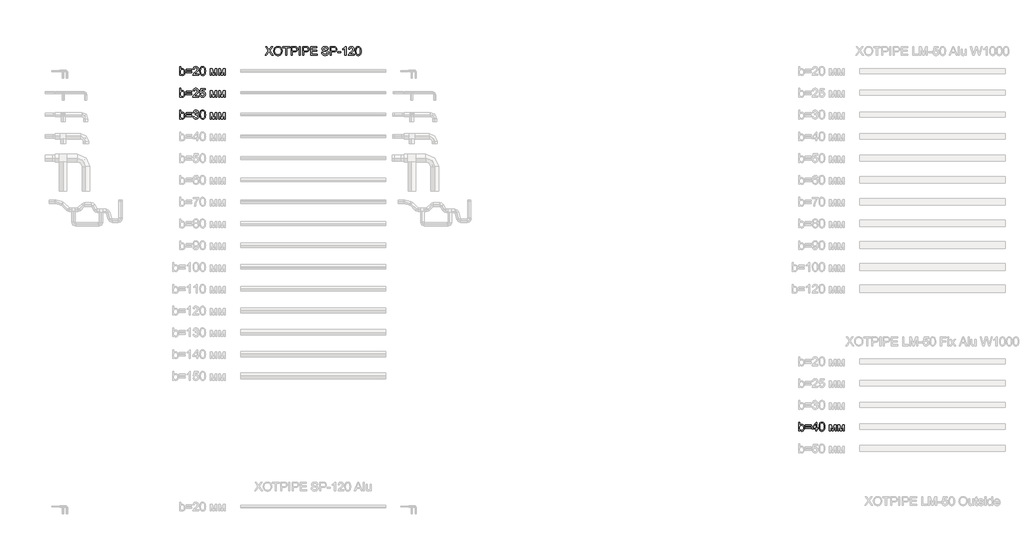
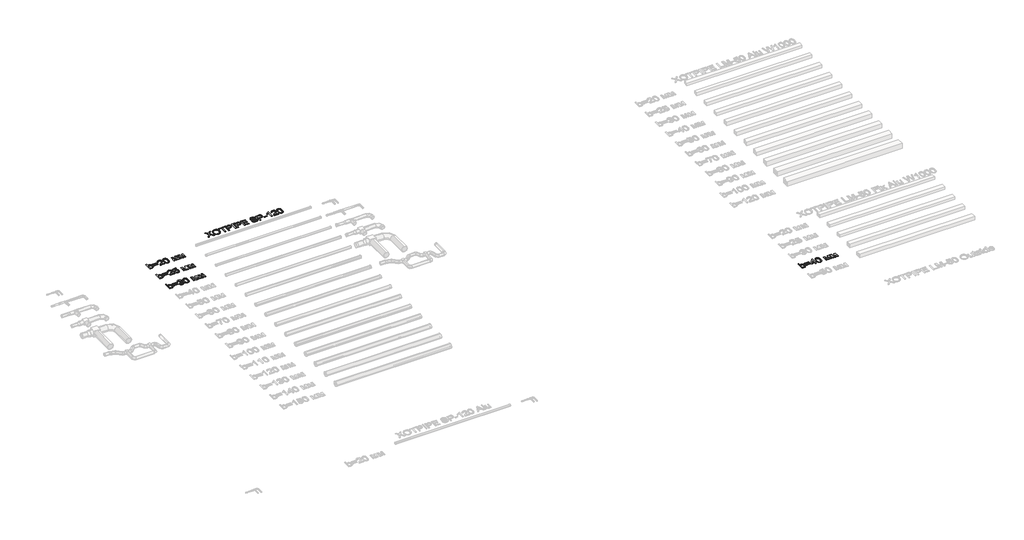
# One storey, part 77 of 86: 5 proxies.
"""IFC4 building model written with IfcOpenShell, lengths in millimetres."""

from ifc_helpers import new_model, si_unit, origin, origin_with_axes, place, context, project, spatial, polyline, outline, extrude, element, save

model = new_model("IFC4")

# Units and contexts
model_context = context("Model", 3, world=origin())
ifc_project = project(units=[si_unit("LENGTHUNIT", "METRE", prefix="MILLI")], contexts=[model_context])

# Site, building, storey
site = spatial("IfcSite", under=ifc_project)
building = spatial("IfcBuilding", under=site)
storey = spatial("IfcBuildingStorey", under=building, Name="Уровень 1", Elevation=0.0)

# Proxies
placement = place(None, origin())
element("IfcBuildingElementProxy", 1, Name="Текст модели 1", ObjectType="Текст модели 1", at=placement, inside=storey, context=model_context, shape_type="SweptSolid", body=[
    extrude(outline(polyline([(47159.6307988, 89169.2937088), (47084.2885662, 89169.2937088), (47084.2885662, 89772.0315697), (47159.6307988, 89772.0315697), (47159.6307988, 89548.5064694), (47184.4076512, 89580.3742473), (47212.3850769, 89603.1369457), (47243.563076, 89616.7945648), (47277.9416484, 89621.3471045), (47316.7531989, 89617.2452202), (47353.4310339, 89604.9395675), (47385.8782258, 89585.2026984), (47411.9978475, 89558.8071653), (47432.4704805, 89526.0104854), (47447.9767066, 89487.0701762), (47457.7439736, 89443.6049185), (47460.9997292, 89397.233393), (47457.6290105, 89343.7249568), (47447.5168541, 89296.6544555), (47430.6632602, 89256.0218892), (47407.0682288, 89221.8272577), (47378.7459136, 89194.7235517), (47347.7104688, 89175.3637617), (47313.9618943, 89163.7478877), (47277.50019, 89159.8759297), (47241.9903805, 89164.8699278), (47210.5088787, 89179.8519221), (47183.0556848, 89204.8219125), (47159.6307988, 89239.7798991), (47159.6307988, 89169.2937088)]), holes=[polyline([(47159.6307988, 89393.7017259), (47164.7811467, 89330.8674811), (47171.2190816, 89307.065516), (47180.2321905, 89288.3403224), (47198.4883345, 89265.0993774), (47219.7059286, 89248.4987024), (47243.8849727, 89238.5382973), (47271.0254669, 89235.2181623), (47293.5582391, 89237.6645776), (47314.5091188, 89245.0038234), (47333.8781058, 89257.2358997), (47351.6652003, 89274.3608066), (47366.5368299, 89296.3325588), (47377.1594225, 89323.105171), (47383.5329781, 89354.6786432), (47385.6574966, 89391.0529755), (47383.6203501, 89428.1170865), (47377.5089104, 89459.9940614), (47367.3231777, 89486.6839001), (47353.0631519, 89508.1866028), (47335.9152524, 89524.7320955), (47317.0658986, 89536.5503046), (47296.5150907, 89543.64123), (47274.2628285, 89546.0048719), (47251.7300563, 89543.5584566), (47230.7791767, 89536.2192108), (47211.4101896, 89523.9871344), (47193.6230951, 89506.8622276), (47178.7514655, 89485.1112046), (47168.1288729, 89459.00078), (47161.7553173, 89428.5309538), (47159.6307988, 89393.7017259)])]), origin_with_axes(), (0.0, 0.0, 1.0), 20.0),
    extrude(outline(polyline([(47931.8886831, 89517.7515346), (47536.3419619, 89517.7515346), (47536.3419619, 89593.0937672), (47931.8886831, 89593.0937672), (47931.8886831, 89517.7515346)])), origin_with_axes(), (0.0, 0.0, 1.0), 20.0),
    extrude(outline(polyline([(47931.8886831, 89338.8137322), (47536.3419619, 89338.8137322), (47536.3419619, 89414.1559648), (47931.8886831, 89414.1559648), (47931.8886831, 89338.8137322)])), origin_with_axes(), (0.0, 0.0, 1.0), 20.0),
    extrude(outline(polyline([(48402.7776369, 89244.6359414), (48402.7776369, 89169.2937088), (48007.2309157, 89169.2937088), (48008.8863847, 89195.8180007), (48015.3243196, 89221.2386465), (48033.9023603, 89261.8344247), (48061.0888398, 89301.2161923), (48100.4154251, 89342.4373698), (48155.4137833, 89388.5513779), (48236.7157043, 89460.7666136), (48285.4968568, 89514.0727147), (48299.724693, 89535.8513288), (48309.8874331, 89557.3356373), (48315.9850772, 89578.5256402), (48318.0176252, 89599.4213376), (48316.1000403, 89619.0800317), (48310.3472856, 89637.1476362), (48300.7593611, 89653.624151), (48287.3362668, 89668.5095763), (48270.8229638, 89680.8382216), (48251.964413, 89689.6443969), (48230.7606145, 89694.928102), (48207.2115683, 89696.6893371), (48182.4025262, 89694.9694888), (48160.2146434, 89689.8099438), (48140.6479198, 89681.2107021), (48123.7023554, 89669.1717638), (48109.9941525, 89654.0977991), (48100.1395136, 89636.3934781), (48094.1384385, 89616.0588008), (48091.9909274, 89593.0937672), (48016.6486948, 89602.5115463), (48023.1280164, 89641.4058703), (48034.9140358, 89675.3889696), (48052.006753, 89704.4608442), (48074.406168, 89728.6214943), (48101.597246, 89747.6134023), (48133.0649521, 89761.1790508), (48168.8092865, 89769.31844), (48208.830249, 89772.0315697), (48249.2098965, 89769.0149373), (48285.1473689, 89759.9650403), (48316.6426663, 89744.8818785), (48343.6957885, 89723.7654519), (48365.4238188, 89698.1792592), (48380.9438405, 89669.6867986), (48390.2558535, 89638.2880704), (48393.3598578, 89603.9830743), (48390.0121317, 89567.9490329), (48379.9689532, 89532.5403908), (48362.1450705, 89496.5247435), (48335.4552318, 89458.6696862), (48292.909679, 89413.4753831), (48227.5186544, 89355.4419984), (48140.8456563, 89282.9692453), (48106.85336, 89244.6359414), (48402.7776369, 89244.6359414)])), origin_with_axes(), (0.0, 0.0, 1.0), 20.0),
    extrude(outline(polyline([(48478.1198695, 89465.8065969), (48483.6564935, 89562.2836501), (48490.5772736, 89603.1967265), (48500.2663656, 89639.2261694), (48512.682383, 89670.6662845), (48527.7839389, 89697.8113772), (48545.5710333, 89720.6614476), (48566.0436664, 89739.2164957), (48589.2708158, 89753.5730906), (48615.3214596, 89763.8278012), (48644.1955977, 89769.9806276), (48675.8932301, 89772.0315697), (48722.3199379, 89767.1755274), (48763.8906034, 89752.6074004), (48798.6554519, 89728.8974058), (48824.664709, 89696.6157607), (48844.3096075, 89656.0383766), (48859.9813805, 89607.4411651), (48870.2452882, 89545.7289604), (48873.6665907, 89465.8065969), (48868.185149, 89369.8813667), (48861.3333468, 89329.106246), (48851.7408238, 89293.1227884), (48839.4213755, 89261.6688778), (48824.3887975, 89234.4823983), (48806.6430897, 89211.56335), (48786.1842523, 89192.9117329), (48762.9295116, 89178.458569), (48736.7960944, 89168.1348805), (48707.7840006, 89161.9406674), (48675.8932301, 89159.8759297), (48634.3961411, 89163.4627792), (48597.6079415, 89174.2233275), (48565.5286316, 89192.1575748), (48538.1582111, 89217.265521), (48511.8914367, 89262.6529621), (48493.1294549, 89319.2056218), (48481.8722659, 89386.9235001), (48478.1198695, 89465.8065969)]), holes=[polyline([(48553.4621021, 89465.9537497), (48555.6693941, 89400.456959), (48562.29127, 89347.440565), (48573.3277299, 89306.9045676), (48588.7787737, 89278.848967), (48607.467179, 89259.7604899), (48628.2157235, 89246.1258635), (48651.0244072, 89237.9450876), (48675.8932301, 89235.2181623), (48700.762053, 89237.9542847), (48723.5707367, 89246.1626517), (48744.3192812, 89259.8432634), (48763.0076866, 89278.9961198), (48778.4587304, 89307.0977057), (48789.4951902, 89347.624506), (48796.1170661, 89400.5765206), (48798.3243581, 89465.9537497), (48796.1906425, 89529.7168965), (48789.7894958, 89581.79979), (48779.120918, 89622.2024301), (48764.184909, 89650.9248169), (48745.8092033, 89670.9467945), (48724.8215355, 89685.248207), (48701.2219055, 89693.8290546), (48675.0103133, 89696.6893371), (48650.2702492, 89694.1693454), (48627.8478415, 89686.6093704), (48607.7430905, 89674.0094121), (48589.955996, 89656.3694704), (48573.9899175, 89625.0995008), (48562.5855756, 89582.9402242), (48555.7429705, 89529.8916405), (48553.4621021, 89465.9537497)])]), origin_with_axes(), (0.0, 0.0, 1.0), 20.0),
    extrude(outline(polyline([(49193.8710793, 89611.9293254), (49323.5126944, 89611.9293254), (49423.4294443, 89257.5853876), (49531.1452925, 89611.9293254), (49655.3422541, 89611.9293254), (49655.3422541, 89169.2937088), (49580.0000215, 89169.2937088), (49580.0000215, 89525.6977857), (49471.6955621, 89169.2937088), (49372.8088818, 89169.2937088), (49269.2133119, 89542.7675103), (49269.2133119, 89169.2937088), (49193.8710793, 89169.2937088), (49193.8710793, 89611.9293254)])), origin_with_axes(), (0.0, 0.0, 1.0), 20.0),
    extrude(outline(polyline([(49768.355603, 89611.9293254), (49897.9972181, 89611.9293254), (49997.913968, 89257.5853876), (50105.6298162, 89611.9293254), (50229.8267777, 89611.9293254), (50229.8267777, 89169.2937088), (50154.4845451, 89169.2937088), (50154.4845451, 89525.6977857), (50046.1800857, 89169.2937088), (49947.2934054, 89169.2937088), (49843.6978356, 89542.7675103), (49843.6978356, 89169.2937088), (49768.355603, 89169.2937088), (49768.355603, 89611.9293254)])), origin_with_axes(), (0.0, 0.0, 1.0), 20.0),
])
element("IfcBuildingElementProxy", 2, Name="Текст модели 1", ObjectType="Текст модели 1", at=placement, inside=storey, context=model_context, shape_type="SweptSolid", body=[
    extrude(outline(polyline([(47159.6307988, 87669.2937088), (47084.2885662, 87669.2937088), (47084.2885662, 88272.0315697), (47159.6307988, 88272.0315697), (47159.6307988, 88048.5064694), (47184.4076512, 88080.3742473), (47212.3850769, 88103.1369457), (47243.563076, 88116.7945648), (47277.9416484, 88121.3471045), (47316.7531989, 88117.2452202), (47353.4310339, 88104.9395675), (47385.8782258, 88085.2026984), (47411.9978475, 88058.8071653), (47432.4704805, 88026.0104854), (47447.9767066, 87987.0701762), (47457.7439736, 87943.6049185), (47460.9997292, 87897.233393), (47457.6290105, 87843.7249568), (47447.5168541, 87796.6544555), (47430.6632602, 87756.0218892), (47407.0682288, 87721.8272577), (47378.7459136, 87694.7235517), (47347.7104688, 87675.3637617), (47313.9618943, 87663.7478877), (47277.50019, 87659.8759297), (47241.9903805, 87664.8699278), (47210.5088787, 87679.8519221), (47183.0556848, 87704.8219125), (47159.6307988, 87739.7798991), (47159.6307988, 87669.2937088)]), holes=[polyline([(47159.6307988, 87893.7017259), (47164.7811467, 87830.8674811), (47171.2190816, 87807.065516), (47180.2321905, 87788.3403224), (47198.4883345, 87765.0993774), (47219.7059286, 87748.4987024), (47243.8849727, 87738.5382973), (47271.0254669, 87735.2181623), (47293.5582391, 87737.6645776), (47314.5091188, 87745.0038234), (47333.8781058, 87757.2358997), (47351.6652003, 87774.3608066), (47366.5368299, 87796.3325588), (47377.1594225, 87823.105171), (47383.5329781, 87854.6786432), (47385.6574966, 87891.0529755), (47383.6203501, 87928.1170865), (47377.5089104, 87959.9940614), (47367.3231777, 87986.6839001), (47353.0631519, 88008.1866028), (47335.9152524, 88024.7320955), (47317.0658986, 88036.5503046), (47296.5150907, 88043.64123), (47274.2628285, 88046.0048719), (47251.7300563, 88043.5584566), (47230.7791767, 88036.2192108), (47211.4101896, 88023.9871344), (47193.6230951, 88006.8622276), (47178.7514655, 87985.1112046), (47168.1288729, 87959.00078), (47161.7553173, 87928.5309538), (47159.6307988, 87893.7017259)])]), origin_with_axes(), (0.0, 0.0, 1.0), 20.0),
    extrude(outline(polyline([(47931.8886831, 88017.7515346), (47536.3419619, 88017.7515346), (47536.3419619, 88093.0937672), (47931.8886831, 88093.0937672), (47931.8886831, 88017.7515346)])), origin_with_axes(), (0.0, 0.0, 1.0), 20.0),
    extrude(outline(polyline([(47931.8886831, 87838.8137322), (47536.3419619, 87838.8137322), (47536.3419619, 87914.1559648), (47931.8886831, 87914.1559648), (47931.8886831, 87838.8137322)])), origin_with_axes(), (0.0, 0.0, 1.0), 20.0),
    extrude(outline(polyline([(48402.7776369, 87744.6359414), (48402.7776369, 87669.2937088), (48007.2309157, 87669.2937088), (48008.8863847, 87695.8180007), (48015.3243196, 87721.2386465), (48033.9023603, 87761.8344247), (48061.0888398, 87801.2161923), (48100.4154251, 87842.4373698), (48155.4137833, 87888.5513779), (48236.7157043, 87960.7666136), (48285.4968568, 88014.0727147), (48299.724693, 88035.8513288), (48309.8874331, 88057.3356373), (48315.9850772, 88078.5256402), (48318.0176252, 88099.4213376), (48316.1000403, 88119.0800317), (48310.3472856, 88137.1476362), (48300.7593611, 88153.624151), (48287.3362668, 88168.5095763), (48270.8229638, 88180.8382216), (48251.964413, 88189.6443969), (48230.7606145, 88194.928102), (48207.2115683, 88196.6893371), (48182.4025262, 88194.9694888), (48160.2146434, 88189.8099438), (48140.6479198, 88181.2107021), (48123.7023554, 88169.1717638), (48109.9941525, 88154.0977991), (48100.1395136, 88136.3934781), (48094.1384385, 88116.0588008), (48091.9909274, 88093.0937672), (48016.6486948, 88102.5115463), (48023.1280164, 88141.4058703), (48034.9140358, 88175.3889696), (48052.006753, 88204.4608442), (48074.406168, 88228.6214943), (48101.597246, 88247.6134023), (48133.0649521, 88261.1790508), (48168.8092865, 88269.31844), (48208.830249, 88272.0315697), (48249.2098965, 88269.0149373), (48285.1473689, 88259.9650403), (48316.6426663, 88244.8818785), (48343.6957885, 88223.7654519), (48365.4238188, 88198.1792592), (48380.9438405, 88169.6867986), (48390.2558535, 88138.2880704), (48393.3598578, 88103.9830743), (48390.0121317, 88067.9490329), (48379.9689532, 88032.5403908), (48362.1450705, 87996.5247435), (48335.4552318, 87958.6696862), (48292.909679, 87913.4753831), (48227.5186544, 87855.4419984), (48140.8456563, 87782.9692453), (48106.85336, 87744.6359414), (48402.7776369, 87744.6359414)])), origin_with_axes(), (0.0, 0.0, 1.0), 20.0),
    extrude(outline(polyline([(48478.1198695, 87829.3959531), (48553.4621021, 87838.8137322), (48559.0906966, 87814.5933013), (48567.2944651, 87793.5826409), (48578.0734076, 87775.7817508), (48591.427524, 87761.1906312), (48607.3292233, 87749.8276761), (48625.7509142, 87741.7112795), (48646.6925967, 87736.8414416), (48670.154271, 87735.2181623), (48698.8490666, 87737.4760381), (48724.1593479, 87744.2496653), (48746.0851148, 87755.539044), (48764.6263674, 87771.3441743), (48779.3692383, 87790.8833067), (48789.8998604, 87813.3746922), (48796.2182337, 87838.8183307), (48798.3243581, 87867.2142222), (48796.3515909, 87894.0512138), (48790.4332893, 87917.9083611), (48780.5694533, 87938.7856644), (48766.7600829, 87956.6831234), (48748.9591929, 87971.0397183), (48727.1207979, 87981.2944289), (48701.2448981, 87987.4472553), (48671.3314934, 87989.4981974), (48634.7824172, 87986.2240476), (48605.1863106, 87976.4015984), (48581.5498925, 87961.3552248), (48562.8798812, 87942.409302), (48487.5376486, 87951.8270811), (48553.4621021, 88262.6137906), (48845.4132535, 88262.6137906), (48845.4132535, 88187.271558), (48614.3833605, 88187.271558), (48582.1568977, 88021.2832018), (48608.7455689, 88040.3394891), (48635.9780336, 88053.951123), (48663.8542918, 88062.1181032), (48692.3743435, 88064.84043), (48729.065974, 88061.4651127), (48762.7685633, 88051.3391608), (48793.4821113, 88034.4625743), (48821.2066182, 88010.8353531), (48844.1578562, 87981.9014342), (48860.5515976, 87949.1047543), (48870.3878424, 87912.4453135), (48873.6665907, 87871.9231117), (48870.7143377, 87832.8908321), (48861.8575787, 87796.5808791), (48847.0963136, 87762.993253), (48826.4305425, 87732.1279536), (48795.1237848, 87700.5176931), (48758.5931026, 87677.9389357), (48716.8384962, 87664.3916812), (48669.8599654, 87659.8759297), (48630.979437, 87662.777599), (48595.8605021, 87671.4826067), (48564.5031605, 87685.9909529), (48536.9074123, 87706.3026375), (48513.9469773, 87731.4059852), (48496.4955752, 87760.2893203), (48484.5532059, 87792.952643), (48478.1198695, 87829.3959531)])), origin_with_axes(), (0.0, 0.0, 1.0), 20.0),
    extrude(outline(polyline([(49193.8710793, 88111.9293254), (49323.5126944, 88111.9293254), (49423.4294443, 87757.5853876), (49531.1452925, 88111.9293254), (49655.3422541, 88111.9293254), (49655.3422541, 87669.2937088), (49580.0000215, 87669.2937088), (49580.0000215, 88025.6977857), (49471.6955621, 87669.2937088), (49372.8088818, 87669.2937088), (49269.2133119, 88042.7675103), (49269.2133119, 87669.2937088), (49193.8710793, 87669.2937088), (49193.8710793, 88111.9293254)])), origin_with_axes(), (0.0, 0.0, 1.0), 20.0),
    extrude(outline(polyline([(49768.355603, 88111.9293254), (49897.9972181, 88111.9293254), (49997.913968, 87757.5853876), (50105.6298162, 88111.9293254), (50229.8267777, 88111.9293254), (50229.8267777, 87669.2937088), (50154.4845451, 87669.2937088), (50154.4845451, 88025.6977857), (50046.1800857, 87669.2937088), (49947.2934054, 87669.2937088), (49843.6978356, 88042.7675103), (49843.6978356, 87669.2937088), (49768.355603, 87669.2937088), (49768.355603, 88111.9293254)])), origin_with_axes(), (0.0, 0.0, 1.0), 20.0),
])
element("IfcBuildingElementProxy", 3, Name="Текст модели 1", ObjectType="Текст модели 1", at=placement, inside=storey, context=model_context, shape_type="SweptSolid", body=[
    extrude(outline(polyline([(52966.5663277, 90543.2937088), (53198.9205959, 90871.7387541), (53004.237444, 91146.0315697), (53094.589262, 91146.0315697), (53204.2180966, 90991.6682845), (53230.3745065, 90952.5624284), (53241.1534489, 90931.4827901), (53284.4163716, 90992.6983541), (53392.8679837, 91146.0315697), (53484.5441769, 91146.0315697), (53289.8610251, 90870.8558373), (53522.2152932, 90543.2937088), (53431.8634752, 90543.2937088), (53277.0587317, 90761.6684611), (53244.8322689, 90806.9915229), (53209.3684445, 90757.2538772), (53058.2425209, 90543.2937088), (52966.5663277, 90543.2937088)])), origin_with_axes(), (0.0, 0.0, 1.0), 20.0),
    extrude(outline(polyline([(53569.3041886, 90836.7163882), (53574.3257779, 90907.4141106), (53589.3905456, 90970.000035), (53614.4984917, 91024.4741614), (53630.8186567, 91048.6693004), (53649.6496164, 91070.8364899), (53692.7377951, 91107.8546156), (53741.6569034, 91134.2961341), (53796.4069413, 91150.1610451), (53856.9879089, 91155.4493488), (53897.5377018, 91152.9661453), (53936.0457496, 91145.5165349), (53972.5120524, 91133.1005176), (54006.9366101, 91115.7180933), (54038.3537325, 91093.8934939), (54065.7977293, 91068.1509513), (54089.2686006, 91038.4904655), (54108.7663464, 91004.9120363), (54124.0886314, 90968.1790191), (54135.0331208, 90929.0547689), (54141.5998144, 90887.5392858), (54143.7887123, 90843.6325697), (54141.4848513, 90799.1464394), (54134.5732683, 90757.0699362), (54123.0539633, 90717.4030601), (54106.9269364, 90680.145811), (54086.573865, 90646.2822733), (54062.3764268, 90616.7965314), (54034.3346217, 90591.6885853), (54002.4484497, 90570.9584348), (53967.9733083, 90554.7348388), (53932.1645946, 90543.146556), (53895.0223086, 90536.1935863), (53856.5464505, 90533.8759297), (53815.2884847, 90536.4373081), (53776.2745991, 90544.1214433), (53739.5047937, 90556.9283352), (53704.9790684, 90574.857984), (53673.5987343, 90597.2160122), (53646.265102, 90623.3080427), (53622.9781717, 90653.1340755), (53603.7379434, 90686.6941105), (53588.6731757, 90722.64078), (53577.9126273, 90759.6267161), (53571.4562983, 90797.6519188), (53569.3041886, 90836.7163882)]), holes=[polyline([(53644.6464212, 90835.9806242), (53648.4126132, 90786.0314463), (53659.7111889, 90741.6924688), (53678.5421486, 90702.9636918), (53704.905492, 90669.8451151), (53736.9526124, 90643.3208233), (53772.8349025, 90624.3749005), (53812.5523624, 90613.0073469), (53856.1049921, 90609.2181623), (53900.4025828, 90613.0441351), (53940.5890923, 90624.5220533), (53976.6645204, 90643.6519171), (54008.6288673, 90670.4337263), (54034.7990727, 90704.2512787), (54053.4920766, 90744.488372), (54064.7078789, 90791.145006), (54068.4464797, 90844.2211809), (54066.846193, 90878.7009209), (54062.045333, 90910.9181866), (54054.0438996, 90940.872978), (54042.8418928, 90968.5652952), (54028.5634729, 90993.6318547), (54011.3327999, 91015.7093729), (53991.149874, 91034.7978499), (53968.014695, 91050.8972857), (53942.6446329, 91063.6765866), (53915.7570576, 91072.8046586), (53887.351969, 91078.2815018), (53857.4293672, 91080.1071162), (53815.3896522, 91076.5892446), (53776.3849637, 91066.0356298), (53740.4153016, 91048.446272), (53707.480666, 91023.8211709), (53679.9906839, 90990.9739073), (53660.3549824, 90948.7180616), (53648.5735615, 90897.0536339), (53644.6464212, 90835.9806242)])]), origin_with_axes(), (0.0, 0.0, 1.0), 20.0),
    extrude(outline(polyline([(54398.0687474, 90543.2937088), (54398.0687474, 91070.6893371), (54200.2953868, 91070.6893371), (54200.2953868, 91146.0315697), (54671.1843406, 91146.0315697), (54671.1843406, 91070.6893371), (54473.41098, 91070.6893371), (54473.41098, 90543.2937088), (54398.0687474, 90543.2937088)])), origin_with_axes(), (0.0, 0.0, 1.0), 20.0),
    extrude(outline(polyline([(54755.9443523, 90543.2937088), (54755.9443523, 91146.0315697), (54979.3222997, 91146.0315697), (55031.3408139, 91144.5968299), (55069.3798122, 91140.2926106), (55109.5341319, 91129.5688504), (55142.5883292, 91112.1128497), (55169.2045915, 91087.1336623), (55190.0451066, 91053.8403417), (55203.5095876, 91014.5689387), (55207.9977479, 90971.655504), (55204.96732, 90934.6557723), (55195.8760362, 90900.6174907), (55180.7238965, 90869.5406592), (55159.510901, 90841.4252777), (55130.3884425, 90818.1199533), (55091.5079142, 90801.473293), (55042.8693159, 90791.4852968), (54984.4726477, 90788.1559648), (54831.2865849, 90788.1559648), (54831.2865849, 90543.2937088), (54755.9443523, 90543.2937088)]), holes=[polyline([(54831.2865849, 90863.4981974), (54988.8872316, 90863.4981974), (55025.1236081, 90865.2272428), (55055.6946019, 90870.4143789), (55080.600213, 90879.0596058), (55099.8404414, 90891.1629234), (55114.1970362, 90906.4024351), (55124.4517468, 90924.456244), (55130.6045732, 90945.3243502), (55132.6555153, 90969.0067536), (55127.8178671, 91002.8518972), (55113.3049224, 91031.39954), (55090.919303, 91052.8838485), (55062.4636306, 91065.5389892), (55033.400953, 91069.4017501), (54987.121398, 91070.6893371), (54831.2865849, 91070.6893371), (54831.2865849, 90863.4981974)])]), origin_with_axes(), (0.0, 0.0, 1.0), 20.0),
    extrude(outline(polyline([(55321.0110969, 90543.2937088), (55321.0110969, 91146.0315697), (55396.3533295, 91146.0315697), (55396.3533295, 90543.2937088), (55321.0110969, 90543.2937088)])), origin_with_axes(), (0.0, 0.0, 1.0), 20.0),
    extrude(outline(polyline([(55547.0377947, 90543.2937088), (55547.0377947, 91146.0315697), (55770.4157422, 91146.0315697), (55822.4342563, 91144.5968299), (55860.4732546, 91140.2926106), (55900.6275744, 91129.5688504), (55933.6817716, 91112.1128497), (55960.298034, 91087.1336623), (55981.138549, 91053.8403417), (55994.60303, 91014.5689387), (55999.0911904, 90971.655504), (55996.0607624, 90934.6557723), (55986.9694786, 90900.6174907), (55971.8173389, 90869.5406592), (55950.6043434, 90841.4252777), (55921.481885, 90818.1199533), (55882.6013566, 90801.473293), (55833.9627583, 90791.4852968), (55775.5660901, 90788.1559648), (55622.3800273, 90788.1559648), (55622.3800273, 90543.2937088), (55547.0377947, 90543.2937088)]), holes=[polyline([(55622.3800273, 90863.4981974), (55779.980674, 90863.4981974), (55816.2170506, 90865.2272428), (55846.7880444, 90870.4143789), (55871.6936554, 90879.0596058), (55890.9338838, 90891.1629234), (55905.2904786, 90906.4024351), (55915.5451893, 90924.456244), (55921.6980156, 90945.3243502), (55923.7489578, 90969.0067536), (55918.9113095, 91002.8518972), (55904.3983648, 91031.39954), (55882.0127454, 91052.8838485), (55853.5570731, 91065.5389892), (55824.4943955, 91069.4017501), (55778.2148405, 91070.6893371), (55622.3800273, 91070.6893371), (55622.3800273, 90863.4981974)])]), origin_with_axes(), (0.0, 0.0, 1.0), 20.0),
    extrude(outline(polyline([(56102.6867602, 90543.2937088), (56102.6867602, 91146.0315697), (56535.9045977, 91146.0315697), (56535.9045977, 91070.6893371), (56178.0289928, 91070.6893371), (56178.0289928, 90891.7515346), (56517.0690396, 90891.7515346), (56517.0690396, 90816.409302), (56178.0289928, 90816.409302), (56178.0289928, 90618.6359414), (56545.3223768, 90618.6359414), (56545.3223768, 90543.2937088), (56102.6867602, 90543.2937088)])), origin_with_axes(), (0.0, 0.0, 1.0), 20.0),
    extrude(outline(polyline([(56865.5268654, 90750.4848485), (56940.869098, 90750.4848485), (56949.5143249, 90708.6750597), (56965.1493097, 90675.0690395), (56989.539886, 90648.3975948), (57024.4518873, 90627.3915329), (57067.1261988, 90613.761505), (57114.8037053, 90609.2181623), (57156.779041, 90612.657859), (57193.5304523, 90622.976949), (57223.3104998, 90639.3109095), (57244.371744, 90660.7952181), (57256.898126, 90685.4617058), (57261.0735866, 90711.3422042), (57257.9465897, 90736.560515), (57248.5655988, 90758.3575232), (57229.5093114, 90776.953958), (57197.3564251, 90792.5705487), (57087.6540141, 90821.3389208), (57015.6411135, 90840.376814), (56969.5638936, 90858.4950023), (56932.0583242, 90883.8420717), (56905.4788501, 90914.5602183), (56889.6415302, 90949.9872545), (56884.3624236, 90989.4609925), (56885.9948999, 91011.8971957), (56890.892329, 91033.5884379), (56899.0547107, 91054.534719), (56910.4820452, 91074.736039), (56925.0455737, 91093.3692621), (56942.6165375, 91109.6112522), (56963.1949366, 91123.4620093), (56986.780771, 91134.9215334), (57039.7925665, 91150.3173949), (57098.4697448, 91155.4493488), (57162.0397535, 91150.0782716), (57217.6635112, 91133.9650403), (57241.9989052, 91121.9628902), (57263.354455, 91107.4407484), (57281.7301607, 91090.398615), (57297.1260221, 91070.8364899), (57309.4224778, 91049.3245902), (57318.4999661, 91026.4331331), (57324.3584868, 91002.1621184), (57326.9980402, 90976.5115463), (57251.6558075, 90976.5115463), (57246.6158242, 91000.5526347), (57237.8234445, 91021.4667261), (57225.2786685, 91039.2538206), (57208.9814961, 91053.9139181), (57188.6284247, 91065.3734423), (57163.9159517, 91073.5588166), (57134.844077, 91078.4700413), (57101.4128007, 91080.1071162), (57066.9146666, 91078.4884354), (57037.4381218, 91073.632393), (57012.9831661, 91065.5389892), (56993.5497997, 91054.2082237), (56978.7425494, 91040.5873928), (56968.1659421, 91025.6237927), (56961.8199776, 91009.3174232), (56959.7046562, 90991.6682845), (56961.2037753, 90976.4839552), (56965.7011327, 90962.7159715), (56973.1967283, 90950.3643335), (56983.6905623, 90939.4290412), (57000.2084638, 90929.073163), (57026.2177209, 90918.6069203), (57106.7103014, 90897.343341), (57189.778056, 90877.1466194), (57240.0307365, 90859.5250719), (57282.9809594, 90832.1914396), (57299.586233, 90816.1241935), (57312.9449479, 90798.4566607), (57323.2134541, 90779.2808117), (57330.5481014, 90758.688617), (57336.4158192, 90713.2551906), (57334.7281606, 90689.6877503), (57329.6651846, 90666.8100887), (57321.2268914, 90644.6222058), (57309.4132808, 90623.1241018), (57294.4312865, 90603.1481094), (57276.4878422, 90585.5265618), (57255.5829478, 90570.259459), (57231.7166034, 90557.346801), (57205.5831862, 90547.0782948), (57177.8770734, 90539.7436475), (57117.7467613, 90533.8759297), (57079.2065238, 90535.4578223), (57043.931239, 90540.2035), (57011.9209069, 90548.1129629), (56983.1755275, 90559.186211), (56957.5203568, 90573.4416383), (56934.780651, 90590.897639), (56914.95641, 90611.554213), (56898.0476338, 90635.4113604), (56884.4268029, 90661.6965289), (56874.4663979, 90689.6371665), (56868.1664187, 90719.233273), (56865.5268654, 90750.4848485)])), origin_with_axes(), (0.0, 0.0, 1.0), 20.0),
    extrude(outline(polyline([(57449.4291682, 90543.2937088), (57449.4291682, 91146.0315697), (57672.8071156, 91146.0315697), (57724.8256297, 91144.5968299), (57762.864628, 91140.2926106), (57803.0189478, 91129.5688504), (57836.0731451, 91112.1128497), (57862.6894074, 91087.1336623), (57883.5299225, 91053.8403417), (57896.9944035, 91014.5689387), (57901.4825638, 90971.655504), (57898.4521359, 90934.6557723), (57889.3608521, 90900.6174907), (57874.2087124, 90869.5406592), (57852.9957169, 90841.4252777), (57823.8732584, 90818.1199533), (57784.9927301, 90801.473293), (57736.3541318, 90791.4852968), (57677.9574636, 90788.1559648), (57524.7714008, 90788.1559648), (57524.7714008, 90543.2937088), (57449.4291682, 90543.2937088)]), holes=[polyline([(57524.7714008, 90863.4981974), (57682.3720475, 90863.4981974), (57718.608424, 90865.2272428), (57749.1794178, 90870.4143789), (57774.0850289, 90879.0596058), (57793.3252572, 90891.1629234), (57807.6818521, 90906.4024351), (57817.9365627, 90924.456244), (57824.0893891, 90945.3243502), (57826.1403312, 90969.0067536), (57821.302683, 91002.8518972), (57806.7897383, 91031.39954), (57784.4041189, 91052.8838485), (57755.9484465, 91065.5389892), (57726.8857689, 91069.4017501), (57680.6062139, 91070.6893371), (57524.7714008, 91070.6893371), (57524.7714008, 90863.4981974)])]), origin_with_axes(), (0.0, 0.0, 1.0), 20.0),
    extrude(outline(polyline([(57957.9892383, 90722.2315113), (57957.9892383, 90797.5737439), (58193.4337152, 90797.5737439), (58193.4337152, 90722.2315113), (57957.9892383, 90722.2315113)])), origin_with_axes(), (0.0, 0.0, 1.0), 20.0),
    extrude(outline(polyline([(58541.891541, 90543.2937088), (58466.5493084, 90543.2937088), (58466.5493084, 91013.0054402), (58435.0953978, 90987.5664003), (58395.1802014, 90962.1641485), (58353.2784421, 90939.9624701), (58315.8648432, 90924.1251502), (58315.8648432, 90995.3471045), (58375.0386621, 91027.5367791), (58426.3030181, 91065.8332947), (58466.7148553, 91106.5578316), (58493.3311177, 91146.0315697), (58541.891541, 91146.0315697), (58541.891541, 90543.2937088)])), origin_with_axes(), (0.0, 0.0, 1.0), 20.0),
    extrude(outline(polyline([(59106.9582856, 90618.6359414), (59106.9582856, 90543.2937088), (58711.4115644, 90543.2937088), (58713.0670334, 90569.8180007), (58719.5049683, 90595.2386465), (58738.0830091, 90635.8344247), (58765.2694885, 90675.2161923), (58804.5960738, 90716.4373698), (58859.5944321, 90762.5513779), (58940.896353, 90834.7666136), (58989.6775056, 90888.0727147), (59003.9053417, 90909.8513288), (59014.0680818, 90931.3356373), (59020.1657259, 90952.5256402), (59022.1982739, 90973.4213376), (59020.280689, 90993.0800317), (59014.5279343, 91011.1476362), (59004.9400098, 91027.624151), (58991.5169155, 91042.5095763), (58975.0036125, 91054.8382216), (58956.1450617, 91063.6443969), (58934.9412632, 91068.928102), (58911.392217, 91070.6893371), (58886.5831749, 91068.9694888), (58864.3952921, 91063.8099438), (58844.8285685, 91055.2107021), (58827.8830041, 91043.1717638), (58814.1748012, 91028.0977991), (58804.3201623, 91010.3934781), (58798.3190872, 90990.0588008), (58796.1715761, 90967.0937672), (58720.8293435, 90976.5115463), (58727.3086651, 91015.4058703), (58739.0946845, 91049.3889696), (58756.1874017, 91078.4608442), (58778.5868167, 91102.6214943), (58805.7778947, 91121.6134023), (58837.2456009, 91135.1790508), (58872.9899352, 91143.31844), (58913.0108978, 91146.0315697), (58953.3905453, 91143.0149373), (58989.3280177, 91133.9650403), (59020.823315, 91118.8818785), (59047.8764372, 91097.7654519), (59069.6044675, 91072.1792592), (59085.1244892, 91043.6867986), (59094.4365022, 91012.2880704), (59097.5405065, 90977.9830743), (59094.1927804, 90941.9490329), (59084.1496019, 90906.5403908), (59066.3257193, 90870.5247435), (59039.6358805, 90832.6696862), (58997.0903278, 90787.4753831), (58931.6993031, 90729.4419984), (58845.0263051, 90656.9692453), (58811.0340087, 90618.6359414), (59106.9582856, 90618.6359414)])), origin_with_axes(), (0.0, 0.0, 1.0), 20.0),
    extrude(outline(polyline([(59182.3005182, 90839.8065969), (59187.8371423, 90936.2836501), (59194.7579223, 90977.1967265), (59204.4470143, 91013.2261694), (59216.8630317, 91044.6662845), (59231.9645876, 91071.8113772), (59249.751682, 91094.6614476), (59270.2243151, 91113.2164957), (59293.4514646, 91127.5730906), (59319.5021083, 91137.8278012), (59348.3762464, 91143.9806276), (59380.0738788, 91146.0315697), (59426.5005866, 91141.1755274), (59468.0712521, 91126.6074004), (59502.8361006, 91102.8974058), (59528.8453577, 91070.6157607), (59548.4902562, 91030.0383766), (59564.1620292, 90981.4411651), (59574.4259369, 90919.7289604), (59577.8472394, 90839.8065969), (59572.3657977, 90743.8813667), (59565.5139956, 90703.106246), (59555.9214725, 90667.1227884), (59543.6020242, 90635.6688778), (59528.5694462, 90608.4823983), (59510.8237385, 90585.56335), (59490.364901, 90566.9117329), (59467.1101604, 90552.458569), (59440.9767431, 90542.1348805), (59411.9646493, 90535.9406674), (59380.0738788, 90533.8759297), (59338.5767898, 90537.4627792), (59301.7885903, 90548.2233275), (59269.7092803, 90566.1575748), (59242.3388598, 90591.265521), (59216.0720854, 90636.6529621), (59197.3101036, 90693.2056218), (59186.0529146, 90760.9235001), (59182.3005182, 90839.8065969)]), holes=[polyline([(59257.6427508, 90839.9537497), (59259.8500428, 90774.456959), (59266.4719187, 90721.440565), (59277.5083786, 90680.9045676), (59292.9594224, 90652.848967), (59311.6478277, 90633.7604899), (59332.3963723, 90620.1258635), (59355.205056, 90611.9450876), (59380.0738788, 90609.2181623), (59404.9427017, 90611.9542847), (59427.7513854, 90620.1626517), (59448.4999299, 90633.8432634), (59467.1883353, 90652.9961198), (59482.6393791, 90681.0977057), (59493.675839, 90721.624506), (59500.2977149, 90774.5765206), (59502.5050068, 90839.9537497), (59500.3712913, 90903.7168965), (59493.9701445, 90955.79979), (59483.3015667, 90996.2024301), (59468.3655577, 91024.9248169), (59449.989852, 91044.9467945), (59429.0021842, 91059.248207), (59405.4025542, 91067.8290546), (59379.1909621, 91070.6893371), (59354.4508979, 91068.1693454), (59332.0284903, 91060.6093704), (59311.9237392, 91048.0094121), (59294.1366448, 91030.3694704), (59278.1705662, 90999.0995008), (59266.7662243, 90956.9402242), (59259.9236192, 90903.8916405), (59257.6427508, 90839.9537497)])]), origin_with_axes(), (0.0, 0.0, 1.0), 20.0),
])
element("IfcBuildingElementProxy", 4, Name="Текст модели 1", ObjectType="Текст модели 1", at=placement, inside=storey, context=model_context, shape_type="SweptSolid", body=[
    extrude(outline(polyline([(47159.6307988, 86169.2937088), (47084.2885662, 86169.2937088), (47084.2885662, 86772.0315697), (47159.6307988, 86772.0315697), (47159.6307988, 86548.5064694), (47184.4076512, 86580.3742473), (47212.3850769, 86603.1369457), (47243.563076, 86616.7945648), (47277.9416484, 86621.3471045), (47316.7531989, 86617.2452202), (47353.4310339, 86604.9395675), (47385.8782258, 86585.2026984), (47411.9978475, 86558.8071653), (47432.4704805, 86526.0104854), (47447.9767066, 86487.0701762), (47457.7439736, 86443.6049185), (47460.9997292, 86397.233393), (47457.6290105, 86343.7249568), (47447.5168541, 86296.6544555), (47430.6632602, 86256.0218892), (47407.0682288, 86221.8272577), (47378.7459136, 86194.7235517), (47347.7104688, 86175.3637617), (47313.9618943, 86163.7478877), (47277.50019, 86159.8759297), (47241.9903805, 86164.8699278), (47210.5088787, 86179.8519221), (47183.0556848, 86204.8219125), (47159.6307988, 86239.7798991), (47159.6307988, 86169.2937088)]), holes=[polyline([(47159.6307988, 86393.7017259), (47164.7811467, 86330.8674811), (47171.2190816, 86307.065516), (47180.2321905, 86288.3403224), (47198.4883345, 86265.0993774), (47219.7059286, 86248.4987024), (47243.8849727, 86238.5382973), (47271.0254669, 86235.2181623), (47293.5582391, 86237.6645776), (47314.5091188, 86245.0038234), (47333.8781058, 86257.2358997), (47351.6652003, 86274.3608066), (47366.5368299, 86296.3325588), (47377.1594225, 86323.105171), (47383.5329781, 86354.6786432), (47385.6574966, 86391.0529755), (47383.6203501, 86428.1170865), (47377.5089104, 86459.9940614), (47367.3231777, 86486.6839001), (47353.0631519, 86508.1866028), (47335.9152524, 86524.7320955), (47317.0658986, 86536.5503046), (47296.5150907, 86543.64123), (47274.2628285, 86546.0048719), (47251.7300563, 86543.5584566), (47230.7791767, 86536.2192108), (47211.4101896, 86523.9871344), (47193.6230951, 86506.8622276), (47178.7514655, 86485.1112046), (47168.1288729, 86459.00078), (47161.7553173, 86428.5309538), (47159.6307988, 86393.7017259)])]), origin_with_axes(), (0.0, 0.0, 1.0), 20.0),
    extrude(outline(polyline([(47931.8886831, 86517.7515346), (47536.3419619, 86517.7515346), (47536.3419619, 86593.0937672), (47931.8886831, 86593.0937672), (47931.8886831, 86517.7515346)])), origin_with_axes(), (0.0, 0.0, 1.0), 20.0),
    extrude(outline(polyline([(47931.8886831, 86338.8137322), (47536.3419619, 86338.8137322), (47536.3419619, 86414.1559648), (47931.8886831, 86414.1559648), (47931.8886831, 86338.8137322)])), origin_with_axes(), (0.0, 0.0, 1.0), 20.0),
    extrude(outline(polyline([(48016.6486948, 86329.3959531), (48091.9909274, 86338.8137322), (48108.8583168, 86291.4673194), (48120.230469, 86273.5606633), (48133.5615928, 86259.498374), (48149.1551909, 86248.8757814), (48167.3147659, 86241.2882153), (48188.0403178, 86236.7356756), (48211.3318466, 86235.2181623), (48238.6286906, 86237.3058927), (48262.9824787, 86243.5690836), (48284.3932108, 86254.0077352), (48302.860887, 86268.6218475), (48317.7325167, 86286.3169715), (48328.3551093, 86305.9986582), (48334.7286648, 86327.6669077), (48336.8531834, 86351.32172), (48334.7470589, 86373.8498937), (48328.4286857, 86394.3455193), (48317.8980636, 86412.808597), (48303.1551926, 86429.2391266), (48285.165763, 86442.7266002), (48264.8954651, 86452.36051), (48242.3442988, 86458.1408558), (48217.5122641, 86460.0676378), (48193.710299, 86458.0074986), (48164.6844096, 86451.8270811), (48173.0721191, 86527.1693137), (48185.1386485, 86526.2863969), (48230.2777694, 86531.6942622), (48270.6344242, 86547.9178582), (48287.2442963, 86560.1867228), (48299.1084907, 86575.3618551), (48306.2270073, 86593.4432551), (48308.5998461, 86614.430923), (48306.8799978, 86631.4684579), (48301.7204528, 86646.9700854), (48293.1212112, 86660.9358057), (48281.0822729, 86673.3656186), (48266.3302049, 86683.5697454), (48249.5915741, 86690.8584075), (48210.1546242, 86696.6893371), (48189.4980502, 86695.2178091), (48170.6440979, 86690.8032252), (48153.5927675, 86683.4455853), (48138.3440588, 86673.1448894), (48125.2750509, 86659.9011376), (48114.7628229, 86643.7143298), (48106.8073747, 86624.584466), (48101.4087064, 86602.5115463), (48026.0664738, 86611.9293254), (48034.9968093, 86647.8989875), (48048.2497581, 86679.5828243), (48065.8253205, 86706.9808359), (48087.7234962, 86730.0930222), (48113.2545067, 86748.4411368), (48141.7285731, 86761.5469328), (48173.1456955, 86769.4104105), (48207.5058739, 86772.0315697), (48254.8706807, 86766.8628277), (48298.3727267, 86751.3566016), (48335.0505616, 86726.8924489), (48361.9427354, 86694.8499271), (48378.4422429, 86657.9329689), (48383.9420787, 86618.8455069), (48378.7181544, 86582.4251894), (48363.0463814, 86549.3893862), (48337.147489, 86521.2464136), (48301.2422062, 86499.5045877), (48326.3501524, 86491.6503071), (48348.404678, 86480.4483003), (48367.4057831, 86465.8985674), (48383.3534676, 86448.0011083), (48395.97182, 86427.1973815), (48404.9849289, 86403.9288453), (48410.3927942, 86378.1954998), (48412.195416, 86349.9973448), (48408.5901724, 86311.7744055), (48397.7744418, 86276.5680986), (48379.748224, 86244.378424), (48354.5115191, 86215.2053818), (48323.7657814, 86190.9987465), (48289.212465, 86173.7082927), (48250.8515699, 86163.3340205), (48208.6830962, 86159.8759297), (48170.5705215, 86162.8281827), (48135.8424612, 86171.6849418), (48104.4989152, 86186.4462068), (48076.5398836, 86207.1119779), (48053.0966034, 86232.4682444), (48035.3003119, 86261.3009958), (48023.151009, 86293.610232), (48016.6486948, 86329.3959531)])), origin_with_axes(), (0.0, 0.0, 1.0), 20.0),
    extrude(outline(polyline([(48478.1198695, 86465.8065969), (48483.6564935, 86562.2836501), (48490.5772736, 86603.1967265), (48500.2663656, 86639.2261694), (48512.682383, 86670.6662845), (48527.7839389, 86697.8113772), (48545.5710333, 86720.6614476), (48566.0436664, 86739.2164957), (48589.2708158, 86753.5730906), (48615.3214596, 86763.8278012), (48644.1955977, 86769.9806276), (48675.8932301, 86772.0315697), (48722.3199379, 86767.1755274), (48763.8906034, 86752.6074004), (48798.6554519, 86728.8974058), (48824.664709, 86696.6157607), (48844.3096075, 86656.0383766), (48859.9813805, 86607.4411651), (48870.2452882, 86545.7289604), (48873.6665907, 86465.8065969), (48868.185149, 86369.8813667), (48861.3333468, 86329.106246), (48851.7408238, 86293.1227884), (48839.4213755, 86261.6688778), (48824.3887975, 86234.4823983), (48806.6430897, 86211.56335), (48786.1842523, 86192.9117329), (48762.9295116, 86178.458569), (48736.7960944, 86168.1348805), (48707.7840006, 86161.9406674), (48675.8932301, 86159.8759297), (48634.3961411, 86163.4627792), (48597.6079415, 86174.2233275), (48565.5286316, 86192.1575748), (48538.1582111, 86217.265521), (48511.8914367, 86262.6529621), (48493.1294549, 86319.2056218), (48481.8722659, 86386.9235001), (48478.1198695, 86465.8065969)]), holes=[polyline([(48553.4621021, 86465.9537497), (48555.6693941, 86400.456959), (48562.29127, 86347.440565), (48573.3277299, 86306.9045676), (48588.7787737, 86278.848967), (48607.467179, 86259.7604899), (48628.2157235, 86246.1258635), (48651.0244072, 86237.9450876), (48675.8932301, 86235.2181623), (48700.762053, 86237.9542847), (48723.5707367, 86246.1626517), (48744.3192812, 86259.8432634), (48763.0076866, 86278.9961198), (48778.4587304, 86307.0977057), (48789.4951902, 86347.624506), (48796.1170661, 86400.5765206), (48798.3243581, 86465.9537497), (48796.1906425, 86529.7168965), (48789.7894958, 86581.79979), (48779.120918, 86622.2024301), (48764.184909, 86650.9248169), (48745.8092033, 86670.9467945), (48724.8215355, 86685.248207), (48701.2219055, 86693.8290546), (48675.0103133, 86696.6893371), (48650.2702492, 86694.1693454), (48627.8478415, 86686.6093704), (48607.7430905, 86674.0094121), (48589.955996, 86656.3694704), (48573.9899175, 86625.0995008), (48562.5855756, 86582.9402242), (48555.7429705, 86529.8916405), (48553.4621021, 86465.9537497)])]), origin_with_axes(), (0.0, 0.0, 1.0), 20.0),
    extrude(outline(polyline([(49193.8710793, 86611.9293254), (49323.5126944, 86611.9293254), (49423.4294443, 86257.5853876), (49531.1452925, 86611.9293254), (49655.3422541, 86611.9293254), (49655.3422541, 86169.2937088), (49580.0000215, 86169.2937088), (49580.0000215, 86525.6977857), (49471.6955621, 86169.2937088), (49372.8088818, 86169.2937088), (49269.2133119, 86542.7675103), (49269.2133119, 86169.2937088), (49193.8710793, 86169.2937088), (49193.8710793, 86611.9293254)])), origin_with_axes(), (0.0, 0.0, 1.0), 20.0),
    extrude(outline(polyline([(49768.355603, 86611.9293254), (49897.9972181, 86611.9293254), (49997.913968, 86257.5853876), (50105.6298162, 86611.9293254), (50229.8267777, 86611.9293254), (50229.8267777, 86169.2937088), (50154.4845451, 86169.2937088), (50154.4845451, 86525.6977857), (50046.1800857, 86169.2937088), (49947.2934054, 86169.2937088), (49843.6978356, 86542.7675103), (49843.6978356, 86169.2937088), (49768.355603, 86169.2937088), (49768.355603, 86611.9293254)])), origin_with_axes(), (0.0, 0.0, 1.0), 20.0),
])
element("IfcBuildingElementProxy", 5, Name="Текст модели 1", ObjectType="Текст модели 1", at=placement, inside=storey, context=model_context, shape_type="SweptSolid", body=[
    extrude(outline(polyline([(89771.0068445, 64669.2937088), (89695.6646119, 64669.2937088), (89695.6646119, 65272.0315697), (89771.0068445, 65272.0315697), (89771.0068445, 65048.5064694), (89795.7836969, 65080.3742473), (89823.7611226, 65103.1369457), (89854.9391217, 65116.7945648), (89889.3176942, 65121.3471045), (89928.1292447, 65117.2452202), (89964.8070796, 65104.9395675), (89997.2542716, 65085.2026984), (90023.3738932, 65058.8071653), (90043.8465263, 65026.0104854), (90059.3527524, 64987.0701762), (90069.1200193, 64943.6049185), (90072.375775, 64897.233393), (90069.0050562, 64843.7249568), (90058.8928999, 64796.6544555), (90042.039306, 64756.0218892), (90018.4442745, 64721.8272577), (89990.1219594, 64694.7235517), (89959.0865146, 64675.3637617), (89925.33794, 64663.7478877), (89888.8762358, 64659.8759297), (89853.3664262, 64664.8699278), (89821.8849245, 64679.8519221), (89794.4317306, 64704.8219125), (89771.0068445, 64739.7798991), (89771.0068445, 64669.2937088)]), holes=[polyline([(89771.0068445, 64893.7017259), (89776.1571925, 64830.8674811), (89782.5951274, 64807.065516), (89791.6082363, 64788.3403224), (89809.8643803, 64765.0993774), (89831.0819744, 64748.4987024), (89855.2610185, 64738.5382973), (89882.4015127, 64735.2181623), (89904.9342849, 64737.6645776), (89925.8851645, 64745.0038234), (89945.2541516, 64757.2358997), (89963.041246, 64774.3608066), (89977.9128757, 64796.3325588), (89988.5354683, 64823.105171), (89994.9090239, 64854.6786432), (89997.0335424, 64891.0529755), (89994.9963958, 64928.1170865), (89988.8849562, 64959.9940614), (89978.6992234, 64986.6839001), (89964.4391976, 65008.1866028), (89947.2912981, 65024.7320955), (89928.4419444, 65036.5503046), (89907.8911364, 65043.64123), (89885.6388742, 65046.0048719), (89863.106102, 65043.5584566), (89842.1552224, 65036.2192108), (89822.7862354, 65023.9871344), (89804.9991409, 65006.8622276), (89790.1275112, 64985.1112046), (89779.5049186, 64959.00078), (89773.1313631, 64928.5309538), (89771.0068445, 64893.7017259)])]), origin_with_axes(), (0.0, 0.0, 1.0), 20.0),
    extrude(outline(polyline([(90543.2647288, 65017.7515346), (90147.7180076, 65017.7515346), (90147.7180076, 65093.0937672), (90543.2647288, 65093.0937672), (90543.2647288, 65017.7515346)])), origin_with_axes(), (0.0, 0.0, 1.0), 20.0),
    extrude(outline(polyline([(90543.2647288, 64838.8137322), (90147.7180076, 64838.8137322), (90147.7180076, 64914.1559648), (90543.2647288, 64914.1559648), (90543.2647288, 64838.8137322)])), origin_with_axes(), (0.0, 0.0, 1.0), 20.0),
    extrude(outline(polyline([(90872.8869965, 64669.2937088), (90872.8869965, 64810.5603949), (90599.7714033, 64810.5603949), (90599.7714033, 64885.9026276), (90891.7225546, 65262.6137906), (90948.2292291, 65262.6137906), (90948.2292291, 64885.9026276), (91023.5714617, 64885.9026276), (91023.5714617, 64810.5603949), (90948.2292291, 64810.5603949), (90948.2292291, 64669.2937088), (90872.8869965, 64669.2937088)]), holes=[polyline([(90872.8869965, 64885.9026276), (90872.8869965, 65118.6983541), (90692.4776661, 64885.9026276), (90872.8869965, 64885.9026276)])]), origin_with_axes(), (0.0, 0.0, 1.0), 20.0),
    extrude(outline(polyline([(91089.4959153, 64965.8065969), (91095.0325393, 65062.2836501), (91101.9533193, 65103.1967265), (91111.6424114, 65139.2261694), (91124.0584287, 65170.6662845), (91139.1599846, 65197.8113772), (91156.9470791, 65220.6614476), (91177.4197121, 65239.2164957), (91200.6468616, 65253.5730906), (91226.6975054, 65263.8278012), (91255.5716435, 65269.9806276), (91287.2692759, 65272.0315697), (91333.6959837, 65267.1755274), (91375.2666491, 65252.6074004), (91410.0314977, 65228.8974058), (91436.0407547, 65196.6157607), (91455.6856533, 65156.0383766), (91471.3574262, 65107.4411651), (91481.6213339, 65045.7289604), (91485.0426365, 64965.8065969), (91479.5611947, 64869.8813667), (91472.7093926, 64829.106246), (91463.1168696, 64793.1227884), (91450.7974212, 64761.6688778), (91435.7648432, 64734.4823983), (91418.0191355, 64711.56335), (91397.560298, 64692.9117329), (91374.3055574, 64678.458569), (91348.1721402, 64668.1348805), (91319.1600463, 64661.9406674), (91287.2692759, 64659.8759297), (91245.7721868, 64663.4627792), (91208.9839873, 64674.2233275), (91176.9046773, 64692.1575748), (91149.5342569, 64717.265521), (91123.2674824, 64762.6529621), (91104.5055007, 64819.2056218), (91093.2483116, 64886.9235001), (91089.4959153, 64965.8065969)]), holes=[polyline([(91164.8381479, 64965.9537497), (91167.0454398, 64900.456959), (91173.6673158, 64847.440565), (91184.7037756, 64806.9045676), (91200.1548194, 64778.848967), (91218.8432248, 64759.7604899), (91239.5917693, 64746.1258635), (91262.400453, 64737.9450876), (91287.2692759, 64735.2181623), (91312.1380987, 64737.9542847), (91334.9467824, 64746.1626517), (91355.695327, 64759.8432634), (91374.3837323, 64778.9961198), (91389.8347761, 64807.0977057), (91400.871236, 64847.624506), (91407.4931119, 64900.5765206), (91409.7004039, 64965.9537497), (91407.5666883, 65029.7168965), (91401.1655416, 65081.79979), (91390.4969637, 65122.2024301), (91375.5609547, 65150.9248169), (91357.185249, 65170.9467945), (91336.1975812, 65185.248207), (91312.5979512, 65193.8290546), (91286.3863591, 65196.6893371), (91261.6462949, 65194.1693454), (91239.2238873, 65186.6093704), (91219.1191363, 65174.0094121), (91201.3320418, 65156.3694704), (91185.3659632, 65125.0995008), (91173.9616213, 65082.9402242), (91167.1190162, 65029.8916405), (91164.8381479, 64965.9537497)])]), origin_with_axes(), (0.0, 0.0, 1.0), 20.0),
    extrude(outline(polyline([(91805.2471251, 65111.9293254), (91934.8887402, 65111.9293254), (92034.8054901, 64757.5853876), (92142.5213382, 65111.9293254), (92266.7182998, 65111.9293254), (92266.7182998, 64669.2937088), (92191.3760672, 64669.2937088), (92191.3760672, 65025.6977857), (92083.0716078, 64669.2937088), (91984.1849275, 64669.2937088), (91880.5893577, 65042.7675103), (91880.5893577, 64669.2937088), (91805.2471251, 64669.2937088), (91805.2471251, 65111.9293254)])), origin_with_axes(), (0.0, 0.0, 1.0), 20.0),
    extrude(outline(polyline([(92379.7316487, 65111.9293254), (92509.3732638, 65111.9293254), (92609.2900137, 64757.5853876), (92717.0058619, 65111.9293254), (92841.2028235, 65111.9293254), (92841.2028235, 64669.2937088), (92765.8605909, 64669.2937088), (92765.8605909, 65025.6977857), (92657.5561315, 64669.2937088), (92558.6694512, 64669.2937088), (92455.0738813, 65042.7675103), (92455.0738813, 64669.2937088), (92379.7316487, 64669.2937088), (92379.7316487, 65111.9293254)])), origin_with_axes(), (0.0, 0.0, 1.0), 20.0),
])

save(model, "model.ifc")
